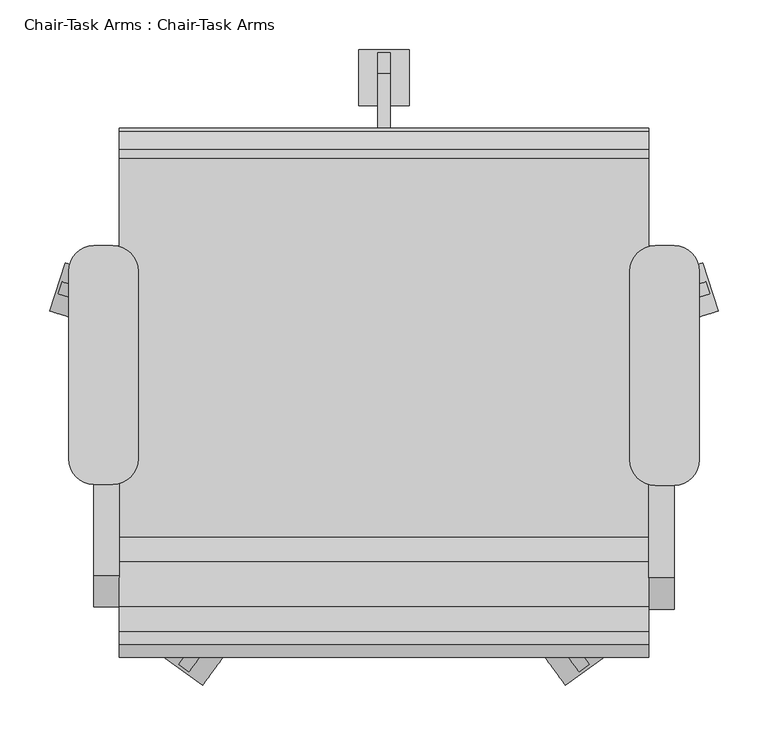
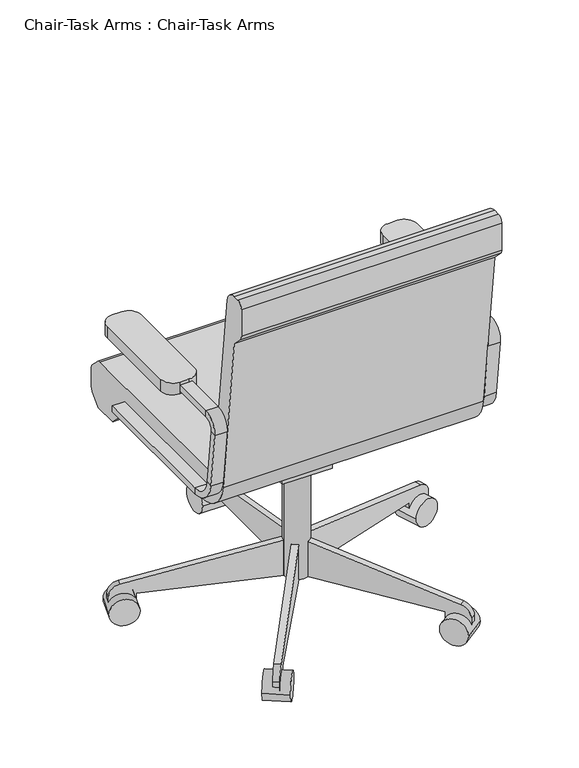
"""IFC4 building model written with IfcOpenShell, lengths in millimetres: furniture geometry, Chair-Task Arms : Chair-Task Arms."""

from ifc_helpers import new_model, si_unit, point, frame, frame_2d, origin, place, context, project, spatial, polyline, circle_curve, trimmed, segment, composite_curve, outline, extrude, source, transform, mapped, element, save
from ifc_brep_helpers import plane_surface, cylinder_surface, revolved_surface, advanced_brep


def chair_task_arms_chair_task_arms_fa5a08ef(model_context):
    return source(origin(), model_context, "Body", "SolidModel", [
        extrude(outline(composite_curve([segment(polyline([(433.0908197, -74.2028048), (414.0408197, -74.2028048)]), True, "CONTINUOUS"), segment(trimmed(circle_curve(frame_2d((414.0408197, -48.8028048)), 25.4), [point((414.0408197, -74.2028048))], [point((388.6408197, -48.8028048))], False, "CARTESIAN"), True, "CONTINUOUS"), segment(polyline([(388.6408197, -48.8028048), (388.6408197, 141.6319091)]), True, "CONTINUOUS"), segment(trimmed(circle_curve(frame_2d((414.0408197, 141.6319091)), 25.4), [point((388.6408197, 141.6319091))], [point((414.0408197, 167.0319091))], False, "CARTESIAN"), True, "CONTINUOUS"), segment(polyline([(414.0408197, 167.0319091), (433.0908197, 167.0319091)]), True, "CONTINUOUS"), segment(trimmed(circle_curve(frame_2d((433.0908197, 141.6319091)), 25.4), [point((433.0908197, 167.0319091))], [point((458.4908197, 141.6319091))], False, "CARTESIAN"), True, "CONTINUOUS"), segment(polyline([(458.4908197, 141.6319091), (458.4908197, -48.8028048)]), True, "CONTINUOUS"), segment(trimmed(circle_curve(frame_2d((433.0908197, -48.8028048)), 25.4), [point((458.4908197, -48.8028048))], [point((433.0908197, -74.2028048))], False, "CARTESIAN"), True, "CONTINUOUS")], self_intersect=False)), frame((0.0, 0.0, 596.9), z_axis=(0.0, 0.0, 1.0), x_axis=(1.0, 0.0, 0.0)), (0.0, 0.0, 1.0), 25.4),
        extrude(outline(composite_curve([segment(polyline([(-132.0591803, -73.1575984), (-151.1091803, -73.1575984)]), True, "CONTINUOUS"), segment(trimmed(circle_curve(frame_2d((-151.1091803, -47.7575984)), 25.4), [point((-151.1091803, -73.1575984))], [point((-176.5091803, -47.7575984))], False, "CARTESIAN"), True, "CONTINUOUS"), segment(polyline([(-176.5091803, -47.7575984), (-176.5091803, 141.6319091)]), True, "CONTINUOUS"), segment(trimmed(circle_curve(frame_2d((-151.1091803, 141.6319091)), 25.4), [point((-176.5091803, 141.6319091))], [point((-151.1091803, 167.0319091))], False, "CARTESIAN"), True, "CONTINUOUS"), segment(polyline([(-151.1091803, 167.0319091), (-132.0591803, 167.0319091)]), True, "CONTINUOUS"), segment(trimmed(circle_curve(frame_2d((-132.0591803, 141.6319091)), 25.4), [point((-132.0591803, 167.0319091))], [point((-106.6591803, 141.6319091))], False, "CARTESIAN"), True, "CONTINUOUS"), segment(polyline([(-106.6591803, 141.6319091), (-106.6591803, -47.7575984)]), True, "CONTINUOUS"), segment(trimmed(circle_curve(frame_2d((-132.0591803, -47.7575984)), 25.4), [point((-106.6591803, -47.7575984))], [point((-132.0591803, -73.1575984))], False, "CARTESIAN"), True, "CONTINUOUS")], self_intersect=False)), frame((0.0, 0.0, 596.9), z_axis=(0.0, 0.0, 1.0), x_axis=(1.0, 0.0, 0.0)), (0.0, 0.0, 1.0), 25.4),
        advanced_brep(
        [(-151.1091803, 167.0319091, 412.75), (-151.1091803, 167.0319091, 425.45), (-125.7091803, 167.0319091, 425.45), (-125.7091803, 167.0319091, 412.75), (-151.1091803, -126.2388651, 412.75), (-151.1091803, -126.2388651, 425.45), (-125.7091803, -126.2388651, 425.45), (-125.7091803, -126.2388651, 412.75), (-151.1091803, -170.3844094, 464.7064065), (-151.1091803, -182.9974221, 463.2225227), (-125.7091803, -170.3844094, 464.7064065), (-125.7091803, -182.9974221, 463.2225227), (-151.1091803, -196.7936301, 580.4902904), (-151.1091803, -184.1806174, 581.9741742), (-125.7091803, -184.1806174, 581.9741742), (-125.7091803, -196.7936301, 580.4902904), (-151.1091803, -165.2610984, 603.25), (-151.1091803, -165.2610984, 615.95), (-125.7091803, -165.2610984, 603.25), (-125.7091803, -165.2610984, 615.95), (-151.1091803, 18.9459016, 615.95), (-125.7091803, 18.9459016, 615.95), (-125.7091803, 18.9459016, 603.25), (-151.1091803, 18.9459016, 603.25)],
        [
            (0, 1),
            (1, 2),
            (2, 3),
            (3, 0),
            (0, 4),
            (4, 5),
            (5, 1),
            (5, 6),
            (6, 2),
            (6, 7),
            (7, 3),
            (7, 4),
            (8, 5, circle_curve(frame((-151.1091803, -126.2388651, 469.9), z_axis=(1.0, 0.0, 0.0), x_axis=(0.0, 0.0, -1.0)), 44.45)),
            (4, 9, circle_curve(frame((-151.1091803, -126.2388651, 469.9), z_axis=(-1.0, 0.0, 0.0), x_axis=(0.0, 0.0, -1.0)), 57.15)),
            (9, 8),
            (10, 6, circle_curve(frame((-125.7091803, -126.2388651, 469.9), z_axis=(1.0, 0.0, 0.0), x_axis=(0.0, 0.0, -1.0)), 44.45)),
            (8, 10),
            (11, 7, circle_curve(frame((-125.7091803, -126.2388651, 469.9), z_axis=(1.0, 0.0, 0.0), x_axis=(0.0, 0.0, -1.0)), 57.15)),
            (10, 11),
            (11, 9),
            (9, 12),
            (12, 13),
            (13, 8),
            (13, 14),
            (14, 10),
            (14, 15),
            (15, 11),
            (15, 12),
            (16, 13, circle_curve(frame((-151.1091803, -165.2610984, 584.2), z_axis=(1.0, 0.0, 0.0), x_axis=(0.0, -0.9931506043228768, -0.11684124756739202)), 19.05)),
            (12, 17, circle_curve(frame((-151.1091803, -165.2610984, 584.2), z_axis=(-1.0, 0.0, 0.0), x_axis=(0.0, -0.9931506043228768, -0.11684124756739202)), 31.75)),
            (17, 16),
            (18, 14, circle_curve(frame((-125.7091803, -165.2610984, 584.2), z_axis=(1.0, 0.0, 0.0), x_axis=(0.0, -0.9931506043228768, -0.11684124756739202)), 19.05)),
            (16, 18),
            (19, 15, circle_curve(frame((-125.7091803, -165.2610984, 584.2), z_axis=(1.0, 0.0, 0.0), x_axis=(0.0, -0.9931506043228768, -0.11684124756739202)), 31.75)),
            (18, 19),
            (19, 17),
            (20, 21),
            (21, 22),
            (22, 23),
            (23, 20),
            (17, 20),
            (23, 16),
            (22, 18),
            (21, 19),
        ],
        [
            plane_surface(frame((-152.608212, 167.0319091, 419.1), z_axis=(0.0, 1.0, 0.0), x_axis=(0.0, 0.0, -1.0))),
            plane_surface(frame((-151.1091803, 167.0319091, 412.75), z_axis=(-1.0, 0.0, 0.0), x_axis=(0.0, -1.0, 0.0))),
            plane_surface(frame((-151.1091803, 167.0319091, 425.45), z_axis=(0.0, 0.0, 1.0), x_axis=(0.0, -1.0, 0.0))),
            plane_surface(frame((-125.7091803, 167.0319091, 425.45), z_axis=(1.0, 0.0, 0.0), x_axis=(0.0, -1.0, 0.0))),
            plane_surface(frame((-125.7091803, 167.0319091, 412.75), z_axis=(0.0, 0.0, -1.0), x_axis=(0.0, -1.0, 0.0))),
            plane_surface(frame((-151.1091803, -126.2388651, 469.9), z_axis=(-1.0, 0.0, 0.0), x_axis=(0.0, 0.0, -1.0))),
            revolved_surface(polyline([(-151.1091803, -126.2388651, 425.45), (-125.7091803, -126.2388651, 425.45)]), (-138.4091803, -126.2388651, 469.9), (-1.0, 0.0, 0.0)),
            plane_surface(frame((-125.7091803, -126.2388651, 469.9), z_axis=(1.0, 0.0, 0.0), x_axis=(0.0, 0.0, -1.0))),
            cylinder_surface(frame((-138.4091803, -126.2388651, 469.9), z_axis=(-1.0, 0.0, 0.0), x_axis=(0.0, 0.0, -1.0)), 57.15),
            plane_surface(frame((-151.1091803, -182.9974221, 463.2225227), z_axis=(-1.0, 0.0, 0.0), x_axis=(0.0, -0.1168412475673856, 0.9931506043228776))),
            plane_surface(frame((-151.1091803, -170.3844094, 464.7064065), z_axis=(0.0, 0.9931506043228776, 0.1168412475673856), x_axis=(0.0, -0.1168412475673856, 0.9931506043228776))),
            plane_surface(frame((-125.7091803, -170.3844094, 464.7064065), z_axis=(1.0, 0.0, 0.0), x_axis=(0.0, -0.1168412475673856, 0.9931506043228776))),
            plane_surface(frame((-125.7091803, -182.9974221, 463.2225227), z_axis=(0.0, -0.9931506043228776, -0.1168412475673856), x_axis=(0.0, -0.1168412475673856, 0.9931506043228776))),
            plane_surface(frame((-151.1091803, -165.2610984, 584.2), z_axis=(-1.0, 0.0, 0.0), x_axis=(0.0, -0.9931506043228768, -0.11684124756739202))),
            revolved_surface(polyline([(-151.1091803, -184.1806174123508, 581.9741742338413), (-125.7091803, -184.1806174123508, 581.9741742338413)]), (-138.4091803, -165.2610984, 584.2), (-1.0, 0.0, 0.0)),
            plane_surface(frame((-125.7091803, -165.2610984, 584.2), z_axis=(1.0, 0.0, 0.0), x_axis=(0.0, -0.9931506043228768, -0.11684124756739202))),
            cylinder_surface(frame((-138.4091803, -165.2610984, 584.2), z_axis=(-1.0, 0.0, 0.0), x_axis=(0.0, -0.9931506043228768, -0.11684124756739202)), 31.75),
            plane_surface(frame((-152.608212, 18.9459016, 609.6), z_axis=(0.0, 1.0, 0.0), x_axis=(0.0, 0.0, 1.0))),
            plane_surface(frame((-151.1091803, -165.2610984, 615.95), z_axis=(-1.0, 0.0, 0.0), x_axis=(0.0, 1.0, 0.0))),
            plane_surface(frame((-151.1091803, -165.2610984, 603.25), z_axis=(0.0, 0.0, -1.0), x_axis=(0.0, 1.0, 0.0))),
            plane_surface(frame((-125.7091803, -165.2610984, 603.25), z_axis=(1.0, 0.0, 0.0), x_axis=(0.0, 1.0, 0.0))),
            plane_surface(frame((-125.7091803, -165.2610984, 615.95), z_axis=(0.0, 0.0, 1.0), x_axis=(0.0, 1.0, 0.0))),
        ],
        [
            (0, [[1, 2, 3, 4]]),
            (1, [[-1, 5, 6, 7]]),
            (2, [[-2, -7, 8, 9]]),
            (3, [[-3, -9, 10, 11]]),
            (4, [[-4, -11, 12, -5]]),
            (5, [[13, -6, 14, 15]]),
            (6, [[16, -8, -13, 17]]),
            (7, [[18, -10, -16, 19]]),
            (8, [[-14, -12, -18, 20]]),
            (9, [[-15, 21, 22, 23]]),
            (10, [[-17, -23, 24, 25]]),
            (11, [[-19, -25, 26, 27]]),
            (12, [[-20, -27, 28, -21]]),
            (13, [[29, -22, 30, 31]]),
            (14, [[32, -24, -29, 33]]),
            (15, [[34, -26, -32, 35]]),
            (16, [[-30, -28, -34, 36]]),
            (17, [[37, 38, 39, 40]]),
            (18, [[-31, 41, -40, 42]]),
            (19, [[-33, -42, -39, 43]]),
            (20, [[-35, -43, -38, 44]]),
            (21, [[-36, -44, -37, -41]]),
        ],
    ),
        advanced_brep(
        [(433.0908197, 167.0319091, 425.45), (433.0908197, 167.0319091, 412.75), (407.6908197, 167.0319091, 412.75), (407.6908197, 167.0319091, 425.45), (433.0908197, -128.329278, 425.45), (433.0908197, -128.329278, 412.75), (407.6908197, -128.329278, 412.75), (407.6908197, -128.329278, 425.45), (433.0908197, -185.0878351, 463.2225227), (433.0908197, -172.4748224, 464.7064065), (407.6908197, -185.0878351, 463.2225227), (407.6908197, -172.4748224, 464.7064065), (433.0908197, -186.2710303, 581.9741742), (433.0908197, -198.884043, 580.4902904), (407.6908197, -198.884043, 580.4902904), (407.6908197, -186.2710303, 581.9741742), (433.0908197, -167.3515113, 615.95), (433.0908197, -167.3515113, 603.25), (407.6908197, -167.3515113, 615.95), (407.6908197, -167.3515113, 603.25), (433.0908197, 18.9459016, 603.25), (407.6908197, 18.9459016, 603.25), (407.6908197, 18.9459016, 615.95), (433.0908197, 18.9459016, 615.95)],
        [
            (0, 1),
            (1, 2),
            (2, 3),
            (3, 0),
            (0, 4),
            (4, 5),
            (5, 1),
            (5, 6),
            (6, 2),
            (6, 7),
            (7, 3),
            (7, 4),
            (8, 5, circle_curve(frame((433.0908197, -128.329278, 469.9), z_axis=(1.0, 0.0, 0.0), x_axis=(0.0, 0.0, -1.0)), 57.15)),
            (4, 9, circle_curve(frame((433.0908197, -128.329278, 469.9), z_axis=(-1.0, 0.0, 0.0), x_axis=(0.0, 0.0, -1.0)), 44.45)),
            (9, 8),
            (10, 6, circle_curve(frame((407.6908197, -128.329278, 469.9), z_axis=(1.0, 0.0, 0.0), x_axis=(0.0, 0.0, -1.0)), 57.15)),
            (8, 10),
            (11, 7, circle_curve(frame((407.6908197, -128.329278, 469.9), z_axis=(1.0, 0.0, 0.0), x_axis=(0.0, 0.0, -1.0)), 44.45)),
            (10, 11),
            (11, 9),
            (9, 12),
            (12, 13),
            (13, 8),
            (13, 14),
            (14, 10),
            (14, 15),
            (15, 11),
            (15, 12),
            (16, 13, circle_curve(frame((433.0908197, -167.3515113, 584.2), z_axis=(1.0, 0.0, 0.0), x_axis=(0.0, -0.9931506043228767, -0.1168412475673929)), 31.75)),
            (12, 17, circle_curve(frame((433.0908197, -167.3515113, 584.2), z_axis=(-1.0, 0.0, 0.0), x_axis=(0.0, -0.9931506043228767, -0.1168412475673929)), 19.05)),
            (17, 16),
            (18, 14, circle_curve(frame((407.6908197, -167.3515113, 584.2), z_axis=(1.0, 0.0, 0.0), x_axis=(0.0, -0.9931506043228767, -0.1168412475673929)), 31.75)),
            (16, 18),
            (19, 15, circle_curve(frame((407.6908197, -167.3515113, 584.2), z_axis=(1.0, 0.0, 0.0), x_axis=(0.0, -0.9931506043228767, -0.1168412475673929)), 19.05)),
            (18, 19),
            (19, 17),
            (20, 21),
            (21, 22),
            (22, 23),
            (23, 20),
            (17, 20),
            (23, 16),
            (22, 18),
            (21, 19),
        ],
        [
            plane_surface(frame((406.191788, 167.0319091, 419.1), z_axis=(0.0, 1.0, 0.0), x_axis=(0.0, 0.0, -1.0))),
            plane_surface(frame((433.0908197, 167.0319091, 425.45), z_axis=(1.0, 0.0, 0.0), x_axis=(0.0, -1.0, 0.0))),
            plane_surface(frame((433.0908197, 167.0319091, 412.75), z_axis=(0.0, 0.0, -1.0), x_axis=(0.0, -1.0, 0.0))),
            plane_surface(frame((407.6908197, 167.0319091, 412.75), z_axis=(-1.0, 0.0, 0.0), x_axis=(0.0, -1.0, 0.0))),
            plane_surface(frame((407.6908197, 167.0319091, 425.45), z_axis=(0.0, 0.0, 1.0), x_axis=(0.0, -1.0, 0.0))),
            plane_surface(frame((433.0908197, -128.329278, 469.9), z_axis=(1.0, 0.0, 0.0), x_axis=(0.0, 0.0, -1.0))),
            cylinder_surface(frame((420.3908197, -128.329278, 469.9), z_axis=(-1.0, 0.0, 0.0), x_axis=(0.0, 0.0, -1.0)), 57.15),
            plane_surface(frame((407.6908197, -128.329278, 469.9), z_axis=(-1.0, 0.0, 0.0), x_axis=(0.0, 0.0, -1.0))),
            revolved_surface(polyline([(407.6908197, -128.329278, 425.45), (433.0908197, -128.329278, 425.45)]), (420.3908197, -128.329278, 469.9), (-1.0, 0.0, 0.0)),
            plane_surface(frame((433.0908197, -172.4748224, 464.7064065), z_axis=(1.0, 0.0, 0.0), x_axis=(0.0, -0.11684124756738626, 0.9931506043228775))),
            plane_surface(frame((433.0908197, -185.0878351, 463.2225227), z_axis=(0.0, -0.9931506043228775, -0.11684124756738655), x_axis=(0.0, -0.11684124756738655, 0.9931506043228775))),
            plane_surface(frame((407.6908197, -185.0878351, 463.2225227), z_axis=(-1.0, 0.0, 0.0), x_axis=(0.0, -0.11684124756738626, 0.9931506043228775))),
            plane_surface(frame((407.6908197, -172.4748224, 464.7064065), z_axis=(0.0, 0.9931506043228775, 0.11684124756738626), x_axis=(0.0, -0.11684124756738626, 0.9931506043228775))),
            plane_surface(frame((433.0908197, -167.3515113, 584.2), z_axis=(1.0, 0.0, 0.0), x_axis=(0.0, -0.9931506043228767, -0.1168412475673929))),
            cylinder_surface(frame((420.3908197, -167.3515113, 584.2), z_axis=(-1.0, 0.0, 0.0), x_axis=(0.0, -0.9931506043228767, -0.1168412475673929)), 31.75),
            plane_surface(frame((407.6908197, -167.3515113, 584.2), z_axis=(-1.0, 0.0, 0.0), x_axis=(0.0, -0.9931506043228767, -0.1168412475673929))),
            revolved_surface(polyline([(407.6908197, -186.2710303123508, 581.9741742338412), (433.0908197, -186.2710303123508, 581.9741742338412)]), (420.3908197, -167.3515113, 584.2), (-1.0, 0.0, 0.0)),
            plane_surface(frame((406.191788, 18.9459016, 609.6), z_axis=(0.0, 1.0, 0.0), x_axis=(0.0, 0.0, 1.0))),
            plane_surface(frame((433.0908197, -167.3515113, 603.25), z_axis=(1.0, 0.0, 0.0), x_axis=(0.0, 1.0, 0.0))),
            plane_surface(frame((433.0908197, -167.3515113, 615.95), z_axis=(0.0, 0.0, 1.0), x_axis=(0.0, 1.0, 0.0))),
            plane_surface(frame((407.6908197, -167.3515113, 615.95), z_axis=(-1.0, 0.0, 0.0), x_axis=(0.0, 1.0, 0.0))),
            plane_surface(frame((407.6908197, -167.3515113, 603.25), z_axis=(0.0, 0.0, -1.0), x_axis=(0.0, 1.0, 0.0))),
        ],
        [
            (0, [[1, 2, 3, 4]]),
            (1, [[-1, 5, 6, 7]]),
            (2, [[-2, -7, 8, 9]]),
            (3, [[-3, -9, 10, 11]]),
            (4, [[-4, -11, 12, -5]]),
            (5, [[13, -6, 14, 15]]),
            (6, [[16, -8, -13, 17]]),
            (7, [[18, -10, -16, 19]]),
            (8, [[-14, -12, -18, 20]]),
            (9, [[-15, 21, 22, 23]]),
            (10, [[-17, -23, 24, 25]]),
            (11, [[-19, -25, 26, 27]]),
            (12, [[-20, -27, 28, -21]]),
            (13, [[29, -22, 30, 31]]),
            (14, [[32, -24, -29, 33]]),
            (15, [[34, -26, -32, 35]]),
            (16, [[-30, -28, -34, 36]]),
            (17, [[37, 38, 39, 40]]),
            (18, [[-31, 41, -40, 42]]),
            (19, [[-33, -42, -39, 43]]),
            (20, [[-35, -43, -38, 44]]),
            (21, [[-36, -44, -37, -41]]),
        ],
    ),
        extrude(outline(composite_curve([segment(trimmed(circle_curve(frame_2d((140.9908197, 18.9459016)), 25.4), [point((115.5908197, 18.9459016))], [point((166.3908197, 18.9459016))], False, "CARTESIAN"), True, "CONTINUOUS"), segment(trimmed(circle_curve(frame_2d((140.9908197, 18.9459016)), 25.4), [point((166.3908197, 18.9459016))], [point((115.5908197, 18.9459016))], False, "CARTESIAN"), True, "CONTINUOUS")], self_intersect=False)), frame((0.0, 0.0, 53.5835944), z_axis=(0.0, 0.0, 1.0), x_axis=(1.0, 0.0, 0.0)), (0.0, 0.0, 1.0), 330.5914056),
        extrude(outline(composite_curve([segment(trimmed(circle_curve(frame_2d((0.0, -28.2002727)), 28.2002727), [point((0.0, -56.4005455))], [point((0.0, 0.0))], False, "CARTESIAN"), True, "CONTINUOUS"), segment(trimmed(circle_curve(frame_2d((0.0, -28.2002727)), 28.2002727), [point((0.0, 0.0))], [point((0.0, -56.4005455))], False, "CARTESIAN"), True, "CONTINUOUS")], self_intersect=False)), frame((477.6203484, 101.6163254, 28.1835944), z_axis=(-0.3090169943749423, 0.9510565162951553, 0.0), x_axis=(0.0, 0.0, 1.0)), (0.0, 0.0, 1.0), 50.8),
        extrude(outline(composite_curve([segment(polyline([(-25.4, 0.0), (0.0, 0.0), (0.0, -50.8), (-24.303053, -50.8)]), True, "CONTINUOUS"), segment(trimmed(circle_curve(frame_2d((-24.303053, -25.4)), 25.4), [point((-24.303053, -50.8))], [point((-49.3171699, -29.8106637))], False, "CARTESIAN"), True, "CONTINUOUS"), segment(polyline([(-49.3171699, -29.8106637), (-101.6, 266.7), (-101.6, 292.1), (-25.4, 292.1), (-25.4, 0.0)]), True, "CONTINUOUS")], self_intersect=False)), frame((420.756686, 103.1705568, 28.1835944), z_axis=(-0.3090169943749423, 0.9510565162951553, 0.0), x_axis=(0.0, 0.0, -1.0)), (0.0, 0.0, 1.0), 12.7),
        extrude(outline(composite_curve([segment(trimmed(circle_curve(frame_2d((0.0, -28.2002727)), 28.2002727), [point((0.0, -56.4005455))], [point((0.0, 0.0))], False, "CARTESIAN"), True, "CONTINUOUS"), segment(trimmed(circle_curve(frame_2d((0.0, -28.2002727)), 28.2002727), [point((0.0, 0.0))], [point((0.0, -56.4005455))], False, "CARTESIAN"), True, "CONTINUOUS")], self_intersect=False)), frame((323.63931, -275.6612394, 28.1835944), z_axis=(0.8090169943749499, 0.5877852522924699, 0.0), x_axis=(0.0, 0.0, 1.0)), (0.0, 0.0, 1.0), 50.8),
        extrude(outline(composite_curve([segment(polyline([(-25.4, 0.0), (0.0, 0.0), (0.0, -50.8), (-24.303053, -50.8)]), True, "CONTINUOUS"), segment(trimmed(circle_curve(frame_2d((-24.303053, -25.3999999)), 25.4), [point((-24.303053, -50.8))], [point((-49.3171699, -29.8106636))], False, "CARTESIAN"), True, "CONTINUOUS"), segment(polyline([(-49.3171699, -29.8106636), (-101.6, 266.7), (-101.6, 292.1), (-25.4, 292.1), (-25.4, 0.0)]), True, "CONTINUOUS")], self_intersect=False)), frame((307.545634, -221.1003988, 28.1835944), z_axis=(0.8090169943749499, 0.5877852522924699, 0.0), x_axis=(0.0, 0.0, -1.0)), (0.0, 0.0, 1.0), 12.7),
        extrude(outline(composite_curve([segment(trimmed(circle_curve(frame_2d((0.0, -28.2002727)), 28.2002727), [point((0.0, -56.4005455))], [point((0.0, 0.0))], False, "CARTESIAN"), True, "CONTINUOUS"), segment(trimmed(circle_curve(frame_2d((0.0, -28.2002727)), 28.2002727), [point((0.0, 0.0))], [point((0.0, -56.4005455))], False, "CARTESIAN"), True, "CONTINUOUS")], self_intersect=False)), frame((-41.6576707, -275.6612394, 28.1835944), z_axis=(-0.8090169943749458, 0.5877852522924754, 0.0), x_axis=(0.0, 0.0, -1.0)), (0.0, 0.0, 1.0), 50.8),
        extrude(outline(composite_curve([segment(polyline([(25.4, 0.0), (25.4, 292.1), (101.6, 292.1), (101.6, 266.7), (49.3171699, -29.8106637)]), True, "CONTINUOUS"), segment(trimmed(circle_curve(frame_2d((24.303053, -25.3999999)), 25.4), [point((49.3171699, -29.8106637))], [point((24.303053, -50.8))], False, "CARTESIAN"), True, "CONTINUOUS"), segment(polyline([(24.303053, -50.8), (0.0, -50.8), (0.0, 0.0), (25.4, 0.0)]), True, "CONTINUOUS")], self_intersect=False)), frame((-25.5639946, -221.1003988, 28.1835944), z_axis=(-0.8090169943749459, 0.5877852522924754, 0.0), x_axis=(0.0, 0.0, 1.0)), (0.0, 0.0, 1.0), 12.7),
        extrude(outline(composite_curve([segment(trimmed(circle_curve(frame_2d((0.0, -28.2002727)), 28.2002727), [point((0.0, -56.4005454))], [point((0.0, 0.0))], False, "CARTESIAN"), True, "CONTINUOUS"), segment(trimmed(circle_curve(frame_2d((0.0, -28.2002727)), 28.2002727), [point((0.0, 0.0))], [point((0.0, -56.4005454))], False, "CARTESIAN"), True, "CONTINUOUS")], self_intersect=False)), frame((-195.638709, 101.6163254, 28.1835944), z_axis=(0.3090169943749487, 0.9510565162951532, 0.0), x_axis=(0.0, 0.0, -1.0)), (0.0, 0.0, 1.0), 50.8),
        extrude(outline(composite_curve([segment(polyline([(25.4, 0.0), (25.4, 292.1000001), (101.6, 292.1000001), (101.6, 266.7), (49.3171699, -29.8106636)]), True, "CONTINUOUS"), segment(trimmed(circle_curve(frame_2d((24.303053, -25.4)), 25.4), [point((49.3171699, -29.8106636))], [point((24.303053, -50.8))], False, "CARTESIAN"), True, "CONTINUOUS"), segment(polyline([(24.303053, -50.8), (0.0, -50.8), (0.0, 0.0), (25.4, 0.0)]), True, "CONTINUOUS")], self_intersect=False)), frame((-138.7750467, 103.1705568, 28.1835944), z_axis=(0.3090169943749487, 0.9510565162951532, 0.0), x_axis=(0.0, 0.0, 1.0)), (0.0, 0.0, 1.0), 12.7),
        extrude(outline(composite_curve([segment(trimmed(circle_curve(frame_2d((336.4459016, 28.1835944)), 28.2002727), [point((308.2456289, 28.1835944))], [point((364.6461744, 28.1835944))], False, "CARTESIAN"), True, "CONTINUOUS"), segment(trimmed(circle_curve(frame_2d((336.4459016, 28.1835944)), 28.2002727), [point((364.6461744, 28.1835944))], [point((308.2456289, 28.1835944))], False, "CARTESIAN"), True, "CONTINUOUS")], self_intersect=False)), frame((115.5908197, 0.0, 0.0), z_axis=(1.0, 0.0, 0.0), x_axis=(0.0, 1.0, 0.0)), (0.0, 0.0, 1.0), 50.8),
        extrude(outline(composite_curve([segment(polyline([(311.0459016, 53.5835944), (18.9459016, 53.5835944), (18.9459016, 129.7835944), (44.3459016, 129.7835944), (340.8565654, 77.5007643)]), True, "CONTINUOUS"), segment(trimmed(circle_curve(frame_2d((336.4459016, 52.4866474)), 25.4), [point((340.8565654, 77.5007643))], [point((361.8459016, 52.4866474))], False, "CARTESIAN"), True, "CONTINUOUS"), segment(polyline([(361.8459016, 52.4866474), (361.8459016, 28.1835944), (311.0459016, 28.1835944), (311.0459016, 53.5835944)]), True, "CONTINUOUS")], self_intersect=False)), frame((134.6408197, 0.0, 0.0), z_axis=(1.0, 0.0, 0.0), x_axis=(0.0, 1.0, 0.0)), (0.0, 0.0, 1.0), 12.7),
        extrude(outline(polyline([(69.7459016, 383.7835944), (69.7459016, 371.0835944), (18.9459016, 283.0954134), (-19.1540984, 283.0954134), (-19.1540984, 383.7835944), (69.7459016, 383.7835944)])), frame((90.1908197, 0.0, 0.0), z_axis=(1.0, 0.0, 0.0), x_axis=(0.0, 1.0, 0.0)), (0.0, 0.0, 1.0), 101.6),
        extrude(outline(composite_curve([segment(polyline([(-126.2050455, 457.2), (255.0102301, 457.2)]), True, "CONTINUOUS"), segment(trimmed(circle_curve(frame_2d((255.0102301, 444.5)), 12.7), [point((255.0102301, 457.2))], [point((263.9604301, 453.510212))], False, "CARTESIAN"), True, "CONTINUOUS"), segment(polyline([(263.9604301, 453.510212), (281.8961016, 435.6939999)]), True, "CONTINUOUS"), segment(trimmed(circle_curve(frame_2d((272.9459016, 426.6837879)), 12.7), [point((281.8961016, 435.6939999))], [point((285.6459016, 426.6837879))], False, "CARTESIAN"), True, "CONTINUOUS"), segment(polyline([(285.6459016, 426.6837879), (285.6459016, 391.6405184)]), True, "CONTINUOUS"), segment(trimmed(circle_curve(frame_2d((260.2459016, 391.6405184)), 25.4), [point((285.6459016, 391.6405184))], [point((278.2663256, 373.7401184))], False, "CARTESIAN"), True, "CONTINUOUS"), segment(polyline([(278.2663256, 373.7401184), (260.2470284, 355.6), (209.4470284, 355.6), (181.0744602, 383.7835944), (-107.1089978, 383.7835944)]), True, "CONTINUOUS"), segment(trimmed(circle_curve(frame_2d((-107.1089978, 459.9835944)), 76.2), [point((-107.1089978, 383.7835944))], [point((-182.7870738, 451.0802913))], False, "CARTESIAN"), True, "CONTINUOUS"), segment(polyline([(-182.7870738, 451.0802913), (-222.3540984, 787.4), (-244.0343545, 809.0802561)]), True, "CONTINUOUS"), segment(trimmed(circle_curve(frame_2d((-235.0540984, 818.0605122)), 12.7), [point((-244.0343545, 809.0802561))], [point((-247.7540984, 818.0605122))], False, "CARTESIAN"), True, "CONTINUOUS"), segment(polyline([(-247.7540984, 818.0605122), (-247.7540984, 876.3)]), True, "CONTINUOUS"), segment(trimmed(circle_curve(frame_2d((-235.0540984, 876.3)), 12.7), [point((-247.7540984, 876.3))], [point((-235.0540984, 889.0))], False, "CARTESIAN"), True, "CONTINUOUS"), segment(polyline([(-235.0540984, 889.0), (-222.1789239, 889.0)]), True, "CONTINUOUS"), segment(trimmed(circle_curve(frame_2d((-222.1789239, 863.6)), 25.4), [point((-222.1789239, 889.0))], [point((-196.9528985, 866.5677677))], False, "CARTESIAN"), True, "CONTINUOUS"), segment(polyline([(-196.9528985, 866.5677677), (-151.4310708, 479.6322323)]), True, "CONTINUOUS"), segment(trimmed(circle_curve(frame_2d((-126.2050455, 482.6)), 25.4), [point((-151.4310708, 479.6322323))], [point((-126.2050455, 457.2))], True, "CARTESIAN"), True, "CONTINUOUS")], self_intersect=False)), frame((-125.7091803, 0.0, 0.0), z_axis=(1.0, 0.0, 0.0), x_axis=(0.0, 1.0, 0.0)), (0.0, 0.0, 1.0), 533.4),
    ])


if __name__ == "__main__":
    model = new_model("IFC4")
    model_context = context("Model", 3, world=origin())
    ifc_project = project(units=[si_unit("LENGTHUNIT", "METRE", prefix="MILLI")], contexts=[model_context])
    site = spatial("IfcSite", under=ifc_project)
    building = spatial("IfcBuilding", under=site)
    placement = place(None, origin())
    chair_task_arms_chair_task_arms_shape = chair_task_arms_chair_task_arms_fa5a08ef(model_context)
    element("IfcFurniture", 1, ObjectType="Chair-Task Arms : Chair-Task Arms", at=placement, inside=building, context=model_context, shape_type="MappedRepresentation", body=[
        mapped(chair_task_arms_chair_task_arms_shape, transform((0.0, 0.0, 0.0), x_axis=(1.0, 0.0, 0.0), y_axis=(0.0, 1.0, 0.0), z_axis=(0.0, 0.0, 1.0))),
    ])
    save(model, "model.ifc")
